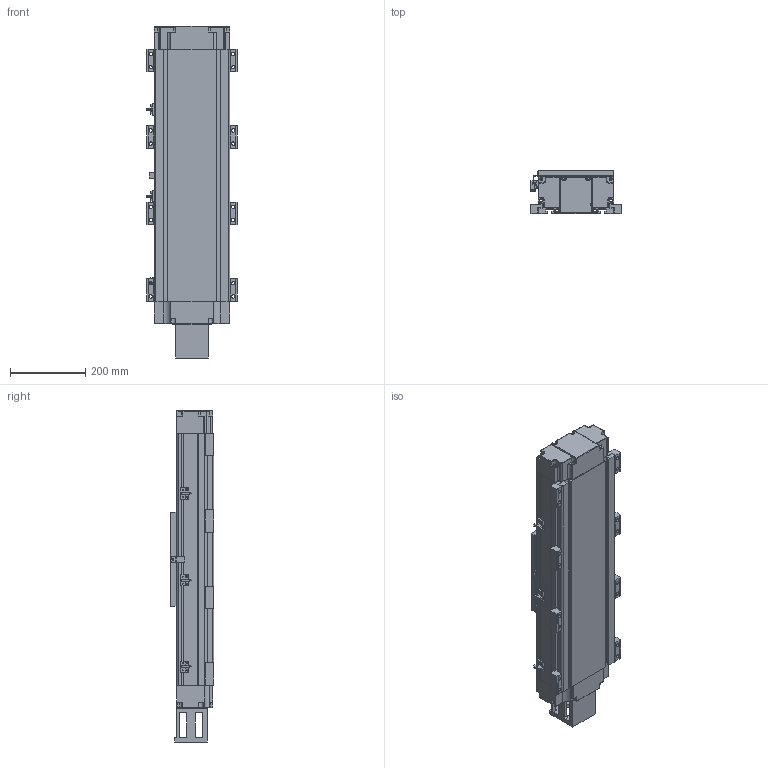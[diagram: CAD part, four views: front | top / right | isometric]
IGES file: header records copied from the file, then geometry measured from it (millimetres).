
Start section: SolidWorks IGES file using analytic representation for surfaces
Bounding box: 240 x 114.96 x 882 mm (x, y, z)
Surface area: 1043370 mm2 (no closed solid volume)
Topology: 0 solids, 0 shells, 1207 faces, 16200 edges, 16145 vertices
Faces by surface type: bspline 704, revolution 503
